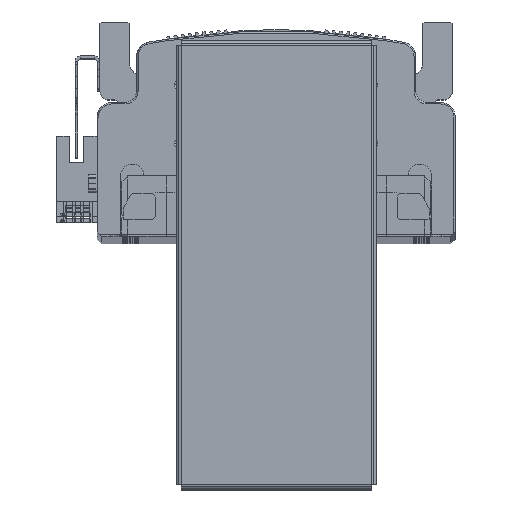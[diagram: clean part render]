
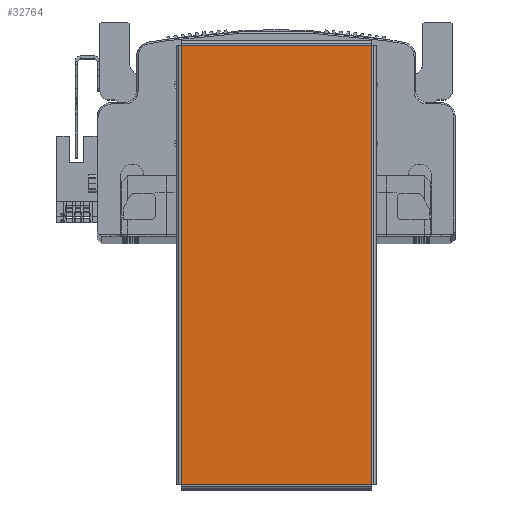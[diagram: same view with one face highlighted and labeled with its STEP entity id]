
A CAD part, top view. The second image highlights one B-rep face of the part: STEP entity #32764.
In plain terms, the highlighted planar face has unit normal (0, 0, 1) as drawn and (0, 0, -1) by its records, which use the part's own axes.
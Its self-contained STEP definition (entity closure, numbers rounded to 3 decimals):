
#10770 = FACE_OUTER_BOUND ( 'NONE', #92270, .T. ) ;
#18831 = ORIENTED_EDGE ( 'NONE', *, *, #49254, .T. ) ;
#18833 = ORIENTED_EDGE ( 'NONE', *, *, #49324, .T. ) ;
#18846 = ORIENTED_EDGE ( 'NONE', *, *, #49348, .T. ) ;
#18871 = ORIENTED_EDGE ( 'NONE', *, *, #49307, .T. ) ;
#29622 = PLANE ( 'NONE',  #31413 ) ;
#29668 = CARTESIAN_POINT ( 'NONE',  ( 0., 0., -1. ) ) ;
#29670 = DIRECTION ( 'NONE',  ( 1., 0., 0. ) ) ;
#29685 = DIRECTION ( 'NONE',  ( 0., 0., 1. ) ) ;
#31413 = AXIS2_PLACEMENT_3D ( 'NONE', #29668, #29685, #29670 ) ;
#32764 = ADVANCED_FACE ( 'NONE', ( #10770 ), #29622, .F. ) ;
#33325 = LINE ( 'NONE', #88817, #33335 ) ;
#33335 = VECTOR ( 'NONE', #88813, 1000. ) ;
#33414 = VECTOR ( 'NONE', #63116, 1000. ) ;
#33442 = LINE ( 'NONE', #63146, #33414 ) ;
#33447 = VECTOR ( 'NONE', #63053, 1000. ) ;
#33467 = LINE ( 'NONE', #63244, #33483 ) ;
#33483 = VECTOR ( 'NONE', #63225, 1000. ) ;
#33511 = LINE ( 'NONE', #63051, #33447 ) ;
#49254 = EDGE_CURVE ( 'NONE', #76108, #76959, #33325, .T. ) ;
#49307 = EDGE_CURVE ( 'NONE', #76965, #76080, #33511, .T. ) ;
#49324 = EDGE_CURVE ( 'NONE', #76080, #76108, #33442, .T. ) ;
#49348 = EDGE_CURVE ( 'NONE', #76959, #76965, #33467, .T. ) ;
#52589 = CARTESIAN_POINT ( 'NONE',  ( -74.763, 32.363, -1. ) ) ;
#52798 = CARTESIAN_POINT ( 'NONE',  ( 74.763, 32.363, -1. ) ) ;
#53203 = CARTESIAN_POINT ( 'NONE',  ( -74.763, -32.363, -1. ) ) ;
#53312 = CARTESIAN_POINT ( 'NONE',  ( 74.763, -32.363, -1. ) ) ;
#63051 = CARTESIAN_POINT ( 'NONE',  ( -74.763, -32.393, -1. ) ) ;
#63053 = DIRECTION ( 'NONE',  ( 0., 1., 0. ) ) ;
#63116 = DIRECTION ( 'NONE',  ( 1., 0., 0. ) ) ;
#63146 = CARTESIAN_POINT ( 'NONE',  ( -74.793, 32.363, -1. ) ) ;
#63225 = DIRECTION ( 'NONE',  ( -1., 0., 0. ) ) ;
#63244 = CARTESIAN_POINT ( 'NONE',  ( 74.793, -32.363, -1. ) ) ;
#76080 = VERTEX_POINT ( 'NONE', #52589 ) ;
#76108 = VERTEX_POINT ( 'NONE', #52798 ) ;
#76959 = VERTEX_POINT ( 'NONE', #53312 ) ;
#76965 = VERTEX_POINT ( 'NONE', #53203 ) ;
#88813 = DIRECTION ( 'NONE',  ( 0., -1., 0. ) ) ;
#88817 = CARTESIAN_POINT ( 'NONE',  ( 74.763, 32.393, -1. ) ) ;
#92270 = EDGE_LOOP ( 'NONE', ( #18831, #18846, #18871, #18833 ) ) ;
